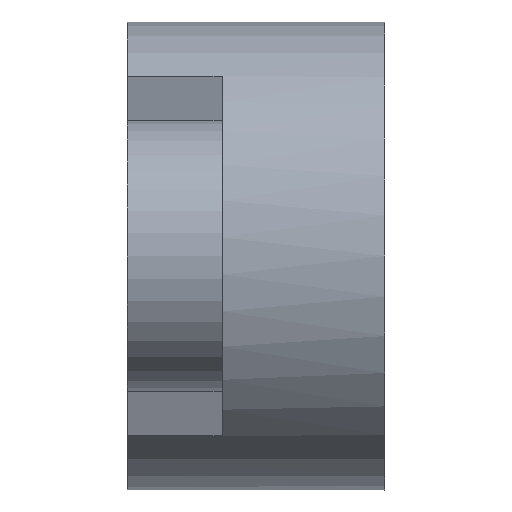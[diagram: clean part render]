
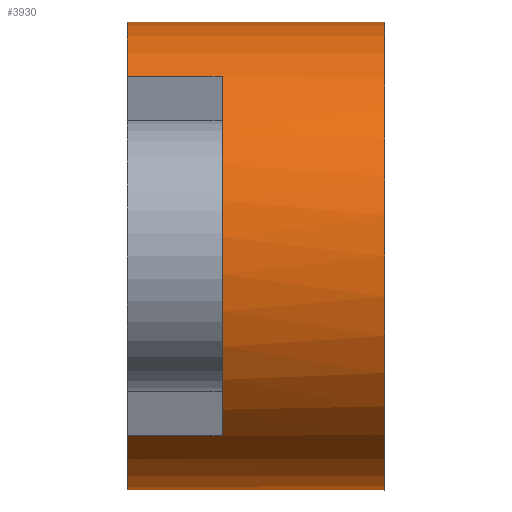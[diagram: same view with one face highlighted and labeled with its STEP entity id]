
A CAD part, left-side view. The second image highlights one B-rep face of the part: STEP entity #3930.
In plain terms, the highlighted cylindrical face has radius 3.45 mm (diameter 6.9 mm), a full revolution.
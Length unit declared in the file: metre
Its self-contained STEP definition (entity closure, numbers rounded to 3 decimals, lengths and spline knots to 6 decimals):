
#73=CYLINDRICAL_SURFACE('',#4281,0.00345);
#146=CIRCLE('',#4140,0.00345);
#210=CIRCLE('',#4205,0.00345);
#220=CIRCLE('',#4219,0.00345);
#1340=ORIENTED_EDGE('',*,*,#1910,.F.);
#1341=ORIENTED_EDGE('',*,*,#1922,.F.);
#1342=ORIENTED_EDGE('',*,*,#1927,.T.);
#1343=ORIENTED_EDGE('',*,*,#1916,.T.);
#1344=ORIENTED_EDGE('',*,*,#1845,.T.);
#1845=EDGE_CURVE('',#2293,#2293,#146,.T.);
#1910=EDGE_CURVE('',#2299,#2300,#210,.T.);
#1916=EDGE_CURVE('',#2305,#2300,#2737,.T.);
#1922=EDGE_CURVE('',#2308,#2299,#2742,.T.);
#1927=EDGE_CURVE('',#2308,#2305,#220,.T.);
#2293=VERTEX_POINT('',#6369);
#2299=VERTEX_POINT('',#6440);
#2300=VERTEX_POINT('',#6442);
#2305=VERTEX_POINT('',#6454);
#2308=VERTEX_POINT('',#6464);
#2737=LINE('',#6453,#3165);
#2742=LINE('',#6465,#3170);
#3165=VECTOR('',#5232,1.);
#3170=VECTOR('',#5243,1.);
#3375=EDGE_LOOP('',(#1340,#1341,#1342,#1343));
#3376=EDGE_LOOP('',(#1344));
#3597=FACE_BOUND('',#3375,.T.);
#3598=FACE_BOUND('',#3376,.T.);
#3930=ADVANCED_FACE('',(#3597,#3598),#73,.T.);
#4140=AXIS2_PLACEMENT_3D('',#6368,#5088,#5089);
#4205=AXIS2_PLACEMENT_3D('',#6441,#5219,#5220);
#4219=AXIS2_PLACEMENT_3D('',#6475,#5254,#5255);
#4281=AXIS2_PLACEMENT_3D('',#6539,#5378,#5379);
#5088=DIRECTION('',(0.,1.,0.));
#5089=DIRECTION('',(0.,0.,1.));
#5219=DIRECTION('',(0.,1.,0.));
#5220=DIRECTION('',(0.,0.,1.));
#5232=DIRECTION('',(0.,1.,0.));
#5243=DIRECTION('',(0.,1.,0.));
#5254=DIRECTION('',(0.,-1.,0.));
#5255=DIRECTION('',(0.,0.,-1.));
#5378=DIRECTION('',(0.,1.,0.));
#5379=DIRECTION('',(0.,0.,1.));
#6368=CARTESIAN_POINT('',(0.,-0.0038,0.));
#6369=CARTESIAN_POINT('',(0.,-0.0038,0.00345));
#6440=CARTESIAN_POINT('',(-0.002209,0.,0.00265));
#6441=CARTESIAN_POINT('',(0.,0.,0.));
#6442=CARTESIAN_POINT('',(-0.002209,0.,-0.00265));
#6453=CARTESIAN_POINT('',(-0.002209,-0.0014,-0.00265));
#6454=CARTESIAN_POINT('',(-0.002209,-0.0014,-0.00265));
#6464=CARTESIAN_POINT('',(-0.002209,-0.0014,0.00265));
#6465=CARTESIAN_POINT('',(-0.002209,-0.0014,0.00265));
#6475=CARTESIAN_POINT('',(0.,-0.0014,0.));
#6539=CARTESIAN_POINT('',(0.,-0.0014,0.));
